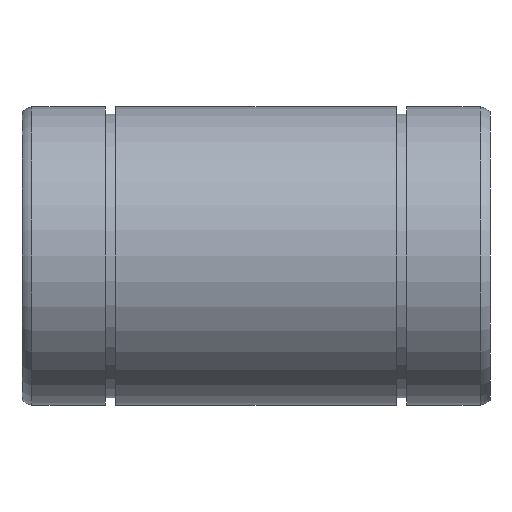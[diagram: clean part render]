
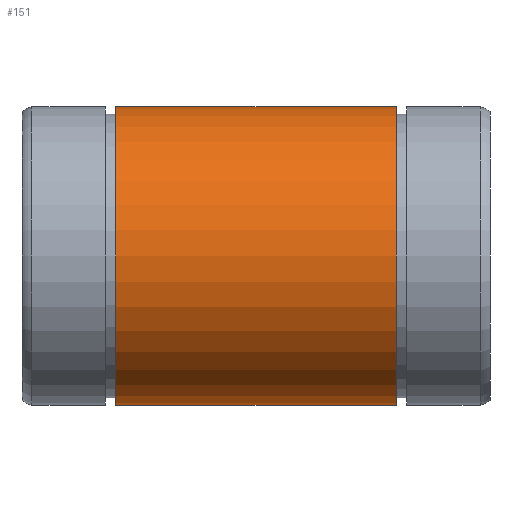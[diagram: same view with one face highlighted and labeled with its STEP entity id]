
A CAD part, front view. The second image highlights one B-rep face of the part: STEP entity #151.
In plain terms, the highlighted cylindrical face has radius 30 mm (diameter 60 mm), a full revolution.
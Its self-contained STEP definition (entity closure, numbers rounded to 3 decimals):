
#117=CARTESIAN_POINT('',(75.15,0.0,30.));
#118=VERTEX_POINT('',#117);
#119=CARTESIAN_POINT('',(75.15,0.0,0.));
#120=DIRECTION('',(-1.0,0.0,0.0));
#121=DIRECTION('',(0.0,0.0,1.0));
#122=AXIS2_PLACEMENT_3D('',#119,#120,#121);
#123=CIRCLE('',#122,30.);
#124=EDGE_CURVE('',#118,#118,#123,.T.);
#132=CARTESIAN_POINT('',(47.,0.0,0.));
#133=DIRECTION('',(-1.0,0.0,0.0));
#134=DIRECTION('',(0.0,0.0,1.0));
#135=AXIS2_PLACEMENT_3D('',#132,#133,#134);
#136=CYLINDRICAL_SURFACE('',#135,30.);
#137=CARTESIAN_POINT('',(18.85,0.0,30.));
#138=VERTEX_POINT('',#137);
#139=CARTESIAN_POINT('',(18.85,0.0,0.));
#140=DIRECTION('',(-1.0,0.0,0.0));
#141=DIRECTION('',(0.0,0.0,1.0));
#142=AXIS2_PLACEMENT_3D('',#139,#140,#141);
#143=CIRCLE('',#142,30.);
#144=EDGE_CURVE('',#138,#138,#143,.T.);
#145=ORIENTED_EDGE('',*,*,#144,.F.);
#146=EDGE_LOOP('',(#145));
#147=FACE_OUTER_BOUND('',#146,.T.);
#148=ORIENTED_EDGE('',*,*,#124,.T.);
#149=EDGE_LOOP('',(#148));
#150=FACE_BOUND('',#149,.T.);
#151=ADVANCED_FACE('',(#147,#150),#136,.T.);
